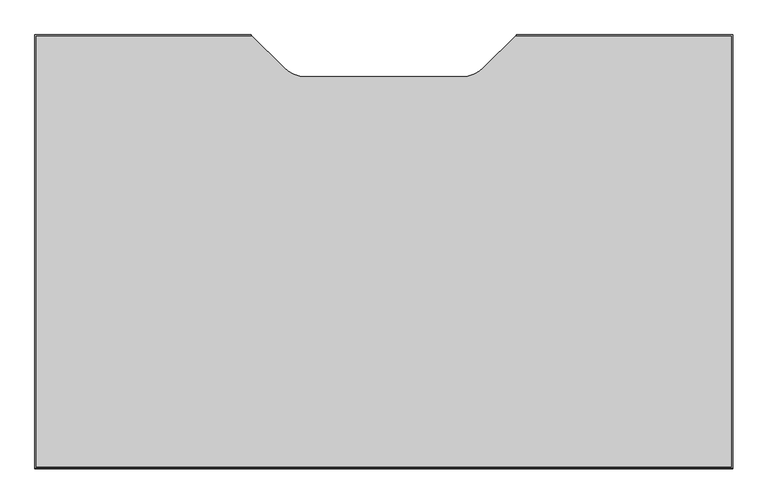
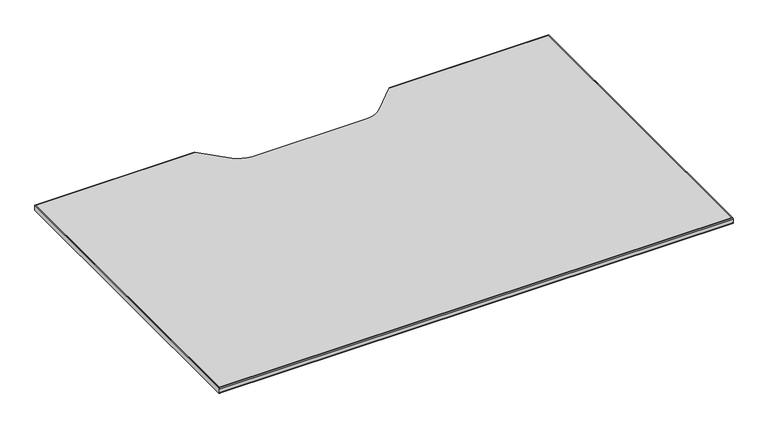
"""IFC4 building model written with IfcOpenShell, lengths in millimetres: furniture geometry, Steelcase Turnstone - Bivi - Table - Table Top : 30D x 48W."""

import ifcopenshell
import ifcopenshell.guid

model = None  # the IFC model being written
_history = None  # IfcOwnerHistory: only IFC2X3 demands one
_inside = {}  # id of a spatial element -> (the spatial element, [elements in it])
_under = {}  # id of a project, library or spatial element -> (it, [spatial elements below it])
_declared = {}  # id of a project -> (the project, [libraries it declares])
_typed = {}  # id of a type object -> (the type object, [elements of that type])
_made_of = {}  # id of a material, layer set ... -> (it, [elements and type objects made of it])


def new_model(schema):
    """Start an empty IFC model of exactly this schema.

    Asked for "IFC4X3", IfcOpenShell would pick the latest addendum, in which some entities
    have other attributes; the version numbers below select the first issue.
    IFC2X3 requires an IfcOwnerHistory on every rooted entity: one is made here for all.
    """
    global model, _history
    if schema == "IFC4X3":
        model = ifcopenshell.file(schema_version=(4, 3, 0, 0))
    else:
        model = ifcopenshell.file(schema=schema)
    _inside.clear()
    _under.clear()
    _declared.clear()
    _typed.clear()
    _made_of.clear()
    _history = None
    if model.schema == "IFC2X3":
        org = make("IfcOrganization", Name="unknown")
        user = make(
            "IfcPersonAndOrganization",
            ThePerson=make("IfcPerson", FamilyName="unknown"),
            TheOrganization=org,
        )
        app = make(
            "IfcApplication",
            ApplicationDeveloper=org,
            Version="unknown",
            ApplicationFullName="unknown",
            ApplicationIdentifier="unknown",
        )
        _history = make(
            "IfcOwnerHistory",
            OwningUser=user,
            OwningApplication=app,
            ChangeAction="ADDED",
            CreationDate=0,
        )
    return model


def make(cls, **values):
    """One entity of the class cls with the attributes given. An attribute that is None is left unset."""
    return model.create_entity(
        cls, **{name: value for name, value in values.items() if value is not None}
    )


def rooted(cls, **values):
    """An entity with a GlobalId (a new one), such as an element, a storey or a relation."""
    return make(cls, GlobalId=ifcopenshell.guid.new(), OwnerHistory=_history, **values)


def si_unit(unit_type, name, prefix=None):
    """IfcSIUnit, for example si_unit("LENGTHUNIT", "METRE", prefix="MILLI")."""
    return make("IfcSIUnit", UnitType=unit_type, Prefix=prefix, Name=name)


def assignment(units):
    """IfcUnitAssignment: the units of a project."""
    return None if units is None else make("IfcUnitAssignment", Units=units)


def point(xyz):
    """IfcCartesianPoint."""
    return None if xyz is None else make("IfcCartesianPoint", Coordinates=xyz)


def direction(xyz):
    """IfcDirection."""
    return None if xyz is None else make("IfcDirection", DirectionRatios=xyz)


def frame(location, z_axis=None, x_axis=None):
    """IfcAxis2Placement3D, a coordinate frame: its origin and axes. An axis left out is left unset."""
    return make(
        "IfcAxis2Placement3D",
        Location=point(location),
        Axis=direction(z_axis),
        RefDirection=direction(x_axis),
    )


def frame_2d(location, x_axis=None):
    """IfcAxis2Placement2D, a coordinate frame in the plane: its origin and x axis."""
    return make(
        "IfcAxis2Placement2D", Location=point(location), RefDirection=direction(x_axis)
    )


def origin():
    """The frame at (0, 0, 0) with its axes left unset."""
    return frame((0.0, 0.0, 0.0))


def place(relative_to, where):
    """IfcLocalPlacement: puts the frame where relative to a parent placement (None: the world)."""
    return make(
        "IfcLocalPlacement", PlacementRelTo=relative_to, RelativePlacement=where
    )


def context(
    kind, dimensions, precision=None, world=None, true_north=None, identifier=None
):
    """IfcGeometricRepresentationContext, for example the 3D "Model" context."""
    return make(
        "IfcGeometricRepresentationContext",
        ContextIdentifier=identifier,
        ContextType=kind,
        CoordinateSpaceDimension=dimensions,
        Precision=precision,
        WorldCoordinateSystem=world,
        TrueNorth=true_north,
    )


def project(units=None, contexts=None):
    """IfcProject with its units and contexts."""
    return rooted(
        "IfcProject",
        Name="project",
        RepresentationContexts=contexts,
        UnitsInContext=assignment(units),
    )


def spatial(cls, under=None, at=None, **own):
    """A site, building, storey or space (cls), placed at a placement, below another one or the project."""
    s = rooted(cls, ObjectPlacement=at, **own)
    if under is not None:
        _under.setdefault(under.id(), (under, []))[1].append(s)
    return s


def polyline(points):
    """IfcPolyline through the points."""
    return make("IfcPolyline", Points=[point(p) for p in points])


def circle_curve(where, radius):
    """IfcCircle in the frame where."""
    return make("IfcCircle", Position=where, Radius=radius)


def trimmed(basis, trim1, trim2, sense, master):
    """IfcTrimmedCurve: the piece of a basis curve between two trims."""
    return make(
        "IfcTrimmedCurve",
        BasisCurve=basis,
        Trim1=trim1,
        Trim2=trim2,
        SenseAgreement=sense,
        MasterRepresentation=master,
    )


def segment(curve, same_sense, transition):
    """IfcCompositeCurveSegment."""
    return make(
        "IfcCompositeCurveSegment",
        Transition=transition,
        SameSense=same_sense,
        ParentCurve=curve,
    )


def composite_curve(segments, self_intersect=None):
    """IfcCompositeCurve: segments joined end to end."""
    return make("IfcCompositeCurve", Segments=segments, SelfIntersect=self_intersect)


def outline(outer, holes=None, kind="AREA"):
    """IfcArbitraryClosedProfileDef: a profile drawn as a closed curve; with holes, ...WithVoids."""
    if holes is None:
        return make("IfcArbitraryClosedProfileDef", ProfileType=kind, OuterCurve=outer)
    return make(
        "IfcArbitraryProfileDefWithVoids",
        ProfileType=kind,
        OuterCurve=outer,
        InnerCurves=holes,
    )


def extrude(swept, where, along, depth):
    """IfcExtrudedAreaSolid: the profile swept, set in the frame where, extruded along a direction by depth."""
    return make(
        "IfcExtrudedAreaSolid",
        SweptArea=swept,
        Position=where,
        ExtrudedDirection=direction(along),
        Depth=depth,
    )


def shape(context_of_items, identifier, shape_type, items):
    """IfcShapeRepresentation: the items that make up one representation, for example the "Body"."""
    return make(
        "IfcShapeRepresentation",
        ContextOfItems=context_of_items,
        RepresentationIdentifier=identifier,
        RepresentationType=shape_type,
        Items=items,
    )


def source(mapping_origin, context_of_items, identifier, shape_type, items):
    """IfcRepresentationMap: a shape defined once, which mapped items show again and again."""
    return make(
        "IfcRepresentationMap",
        MappingOrigin=mapping_origin,
        MappedRepresentation=shape(context_of_items, identifier, shape_type, items),
    )


def transform(
    local_origin,
    x_axis=None,
    y_axis=None,
    z_axis=None,
    scale=None,
    scale2=None,
    scale3=None,
    uniform=True,
):
    """IfcCartesianTransformationOperator3D, or its non-uniform kind. x_axis, y_axis, z_axis: its Axis1, 2, 3."""
    if uniform:
        return make(
            "IfcCartesianTransformationOperator3D",
            Axis1=direction(x_axis),
            Axis2=direction(y_axis),
            LocalOrigin=point(local_origin),
            Scale=scale,
            Axis3=direction(z_axis),
        )
    return make(
        "IfcCartesianTransformationOperator3DnonUniform",
        Axis1=direction(x_axis),
        Axis2=direction(y_axis),
        LocalOrigin=point(local_origin),
        Scale=scale,
        Axis3=direction(z_axis),
        Scale2=scale2,
        Scale3=scale3,
    )


def mapped(mapping_source, mapping_target):
    """IfcMappedItem: shows the shape of a source again, moved by a transform."""
    return make(
        "IfcMappedItem", MappingSource=mapping_source, MappingTarget=mapping_target
    )


def made_of(thing, what):
    """Note that an element or type object is made of a material, layer set ...; save() writes the relation."""
    if what is not None:
        _made_of.setdefault(what.id(), (what, []))[1].append(thing)
    return thing


def element(
    cls,
    number,
    at=None,
    inside=None,
    cuts=None,
    type_object=None,
    material=None,
    context=None,
    identifier="Body",
    shape_type=None,
    held_by="IfcProductDefinitionShape",
    body=None,
    shapes=None,
    **own,
):
    """One element of the class cls, such as IfcWall. Its Tag is "e" and its number.

    at: its placement. inside: the storey or other place that contains it. cuts: it is an
    opening in that element (IfcRelVoidsElement). A single representation is given by context,
    identifier, shape_type and body (its items); several are given by shapes. held_by: the class
    of the entity that holds the representations. save() writes the other relations.
    """
    e = rooted(cls, Tag="e%d" % number, ObjectPlacement=at, **own)
    if body is not None:
        shapes = [shape(context, identifier, shape_type, body)]
    if shapes is not None:
        e.Representation = make(held_by, Representations=shapes)
    if inside is not None:
        _inside.setdefault(inside.id(), (inside, []))[1].append(e)
    if cuts is not None:
        rooted(
            "IfcRelVoidsElement", RelatingBuildingElement=cuts, RelatedOpeningElement=e
        )
    if type_object is not None:
        _typed.setdefault(type_object.id(), (type_object, []))[1].append(e)
    return made_of(e, material)


def aggregate(whole, parts):
    """IfcRelAggregates: a whole, such as a stair, and the parts it consists of."""
    return rooted("IfcRelAggregates", RelatingObject=whole, RelatedObjects=parts)


def save(model, path):
    """Write the relations noted so far, then the file.

    IfcRelAggregates (storeys below a building ...), IfcRelContainedInSpatialStructure (elements
    in a storey), IfcRelDefinesByType, IfcRelAssociatesMaterial and IfcRelDeclares: one each for
    every whole, place, type object, material and project.
    """
    for whole, parts in _under.values():
        aggregate(whole, parts)
    for where, things in _inside.values():
        rooted(
            "IfcRelContainedInSpatialStructure",
            RelatedElements=things,
            RelatingStructure=where,
        )
    for kind, things in _typed.values():
        rooted("IfcRelDefinesByType", RelatedObjects=things, RelatingType=kind)
    for what, things in _made_of.values():
        rooted("IfcRelAssociatesMaterial", RelatedObjects=things, RelatingMaterial=what)
    for by, libraries in _declared.values():
        rooted("IfcRelDeclares", RelatingContext=by, RelatedDefinitions=libraries)
    model.write(path)


def plane_surface(at):
    """IfcPlane: the flat surface through the origin of the frame at, square to its z axis."""
    return make("IfcPlane", Position=at)


def cylinder_surface(at, radius):
    """IfcCylindricalSurface: all points at the distance radius from the z axis of the frame at."""
    return make("IfcCylindricalSurface", Position=at, Radius=radius)


def advanced_brep(points, edges, surfaces, faces):
    """IfcAdvancedBrep: a solid bounded by faces that lie on surfaces and meet in shared edges.

    An edge is (start, end): straight between two places in points (the first is 0);
    or (start, end, curve); or (start, end, curve, False) where it runs against its curve.
    A face is (place in surfaces, loops), or (place, loops, False) where it looks against
    its surface's normal. A loop lists edges by number (the first is 1), with a minus sign
    where the edge is run from its end to its start. The first loop is the outer one.
    """
    corners = [point(p) for p in points]
    vertices = [make("IfcVertexPoint", VertexGeometry=c) for c in corners]
    made = []
    for start, end, *more in edges:
        made.append(
            make(
                "IfcEdgeCurve",
                EdgeStart=vertices[start],
                EdgeEnd=vertices[end],
                EdgeGeometry=more[0] if more else make("IfcPolyline", Points=[corners[start], corners[end]]),
                SameSense=more[1] if len(more) > 1 else True,
            )
        )
    hull = []
    for where, loops, *sense in faces:
        bounds = []
        for j, loop in enumerate(loops):
            ring = [make("IfcOrientedEdge", EdgeElement=made[abs(k) - 1], Orientation=k > 0) for k in loop]
            bounds.append(
                make(
                    "IfcFaceOuterBound" if j == 0 else "IfcFaceBound",
                    Bound=make("IfcEdgeLoop", EdgeList=ring),
                    Orientation=True,
                )
            )
        hull.append(make("IfcAdvancedFace", Bounds=bounds, FaceSurface=surfaces[where], SameSense=sense[0] if sense else True))
    return make("IfcAdvancedBrep", Outer=make("IfcClosedShell", CfsFaces=hull))


def furniture_6679164a(model_context):
    return source(origin(), model_context, "Body", "SolidModel", [
        advanced_brep(
        [(514.3499939, 727.0750061, 723.566625), (515.3499939, 726.0750061, 723.566625), (515.3499939, 726.0750061, 710.485625), (514.3499939, 727.0750061, 710.485625), (957.8500067, 726.0750061, 723.566625), (958.8500061, 727.0750061, 723.566625), (958.8500061, 727.0750061, 710.485625), (957.8500067, 726.0750061, 710.485625), (1320.8, 727.0750061, 723.566625), (1319.8, 726.0750061, 723.566625), (1319.8, 3.0000061, 723.566625), (153.4, 3.0000061, 723.566625), (153.4, 726.0750061, 723.566625), (152.4, 727.0750061, 723.566625), (152.4, 2.0320061, 723.566625), (1320.8, 2.0320061, 723.566625), (1319.8, 726.0750061, 710.485625), (1319.8, 3.0000061, 710.485625), (1320.8, 727.0750061, 710.485625), (1320.8, 2.0320061, 710.485625), (152.4, 2.0320061, 710.485625), (152.4, 727.0750061, 710.485625), (153.4, 726.0750061, 710.485625), (153.4, 3.0000061, 710.485625), (1320.8, 6.1e-06, 721.534625), (1320.8, 6.1e-06, 712.517625), (152.4, 6.1e-06, 712.517625), (152.4, 6.1e-06, 721.534625)],
        [
            (0, 1),
            (1, 2),
            (2, 3),
            (3, 0),
            (4, 5),
            (5, 6),
            (6, 7),
            (7, 4),
            (8, 5),
            (4, 9),
            (9, 10),
            (10, 11),
            (11, 12),
            (12, 1),
            (0, 13),
            (13, 14),
            (14, 15),
            (15, 8),
            (9, 16),
            (16, 17),
            (17, 10),
            (16, 7),
            (6, 18),
            (18, 19),
            (19, 20),
            (20, 21),
            (21, 3),
            (2, 22),
            (22, 23),
            (23, 17),
            (15, 24, circle_curve(frame((1320.8, 2.0320061, 721.534625), z_axis=(1.0, 0.0, 0.0), x_axis=(0.0, 1.0, 0.0)), 2.032)),
            (24, 25),
            (25, 19, circle_curve(frame((1320.8, 2.0320061, 712.517625), z_axis=(1.0, 0.0, 0.0), x_axis=(0.0, 1.0, 0.0)), 2.032)),
            (18, 8),
            (12, 22),
            (21, 13),
            (11, 23),
            (20, 26, circle_curve(frame((152.4, 2.0320061, 712.517625), z_axis=(-1.0, 0.0, 0.0), x_axis=(0.0, 1.0, 0.0)), 2.032)),
            (26, 27),
            (27, 14, circle_curve(frame((152.4, 2.0320061, 721.534625), z_axis=(-1.0, 0.0, 0.0), x_axis=(0.0, 1.0, 0.0)), 2.032)),
            (25, 26),
            (24, 27),
        ],
        [
            plane_surface(frame((514.3499939, 727.0750061, 724.4389999), z_axis=(0.7071067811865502, 0.7071067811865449, 0.0), x_axis=(0.0, 0.0, -1.0))),
            plane_surface(frame((904.6973766, 672.9223408, 724.4389999), z_axis=(-0.7071070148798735, 0.7071065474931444, 0.0), x_axis=(0.0, 0.0, -1.0))),
            plane_surface(frame((1320.8, 3.0000061, 723.566625), z_axis=(0.0, 0.0, 1.0), x_axis=(0.0, 1.0, 0.0))),
            plane_surface(frame((1319.8, 3.0000061, 723.566625), z_axis=(-1.0, 0.0, 0.0), x_axis=(0.0, 1.0, 0.0))),
            plane_surface(frame((1319.8, 3.0000061, 710.485625), z_axis=(0.0, 0.0, -1.0), x_axis=(0.0, 1.0, 0.0))),
            plane_surface(frame((1320.8, 3.0000061, 710.485625), z_axis=(1.0, 0.0, 0.0), x_axis=(0.0, 1.0, 0.0))),
            plane_surface(frame((1319.8, 726.0750061, 723.566625), z_axis=(0.0, -1.0, 0.0), x_axis=(-1.0, 0.0, 0.0))),
            plane_surface(frame((1320.8, 727.0750061, 710.485625), z_axis=(0.0, 1.0, 0.0), x_axis=(-1.0, 0.0, 0.0))),
            plane_surface(frame((153.4, 726.0750061, 723.566625), z_axis=(1.0, 0.0, 0.0), x_axis=(0.0, -1.0, 0.0))),
            plane_surface(frame((152.4, 727.0750061, 710.485625), z_axis=(-1.0, 0.0, 0.0), x_axis=(0.0, -1.0, 0.0))),
            cylinder_surface(frame((152.4, 2.0320061, 712.517625), z_axis=(-1.0, 0.0, 0.0), x_axis=(0.0, 1.0, 0.0)), 2.032),
            plane_surface(frame((152.4, 6.1e-06, 712.517625), z_axis=(0.0, -1.0, 0.0), x_axis=(1.0, 0.0, 0.0))),
            cylinder_surface(frame((152.4, 2.0320061, 721.534625), z_axis=(-1.0, 0.0, 0.0), x_axis=(0.0, 1.0, 0.0)), 2.032),
            plane_surface(frame((152.4, 3.0000061, 723.566625), z_axis=(0.0, 1.0, 0.0), x_axis=(1.0, 0.0, 0.0))),
        ],
        [
            (0, [[1, 2, 3, 4]]),
            (1, [[5, 6, 7, 8]]),
            (2, [[9, -5, 10, 11, 12, 13, 14, -1, 15, 16, 17, 18]]),
            (3, [[-11, 19, 20, 21]]),
            (4, [[-20, 22, -7, 23, 24, 25, 26, 27, -3, 28, 29, 30]]),
            (5, [[-18, 31, 32, 33, -24, 34]]),
            (6, [[-19, -10, -8, -22]]),
            (6, [[35, -28, -2, -14]]),
            (7, [[-34, -23, -6, -9]]),
            (7, [[36, -15, -4, -27]]),
            (8, [[-13, 37, -29, -35]]),
            (9, [[-16, -36, -26, 38, 39, 40]]),
            (10, [[-38, -25, -33, 41]]),
            (11, [[-39, -41, -32, 42]]),
            (12, [[-40, -42, -31, -17]]),
            (13, [[-30, -37, -12, -21]]),
        ],
    ),
        extrude(outline(composite_curve([segment(polyline([(1319.8, 726.0750061), (1319.8, 3.0000061), (153.4, 3.0000061), (153.4, 726.0750061), (515.3499939, 726.0750061), (568.512149, 672.912851)]), True, "CONTINUOUS"), segment(trimmed(circle_curve(frame_2d((606.3859497, 710.7866517)), 53.5616426), [point((568.512149, 672.912851))], [point((606.3859497, 657.2250091))], True, "CARTESIAN"), True, "CONTINUOUS"), segment(polyline([(606.3859497, 657.2250091), (866.8006832, 657.2250091)]), True, "CONTINUOUS"), segment(trimmed(circle_curve(frame_2d((866.8006832, 710.8190091)), 53.594), [point((866.8006832, 657.2250091))], [point((904.6973766, 672.9223408))], True, "CARTESIAN"), True, "CONTINUOUS"), segment(polyline([(904.6973766, 672.9223408), (957.8500067, 726.0750061), (1319.8, 726.0750061)]), True, "CONTINUOUS")], self_intersect=False)), frame((0.0, 0.0, 710.485625), z_axis=(0.0, 0.0, 1.0), x_axis=(1.0, 0.0, 0.0)), (0.0, 0.0, 1.0), 13.081),
    ])


if __name__ == "__main__":
    model = new_model("IFC4")
    model_context = context("Model", 3, world=origin())
    ifc_project = project(units=[si_unit("LENGTHUNIT", "METRE", prefix="MILLI")], contexts=[model_context])
    site = spatial("IfcSite", under=ifc_project)
    building = spatial("IfcBuilding", under=site)
    placement = place(None, origin())
    furniture_shape = furniture_6679164a(model_context)
    element("IfcFurniture", 1, ObjectType="Steelcase Turnstone - Bivi - Table - Table Top : 30D x 48W", at=placement, inside=building, context=model_context, shape_type="MappedRepresentation", body=[
        mapped(furniture_shape, transform((0.0, 0.0, 0.0), x_axis=(1.0, 0.0, 0.0), y_axis=(0.0, 1.0, 0.0), z_axis=(0.0, 0.0, 1.0))),
    ])
    save(model, "model.ifc")
